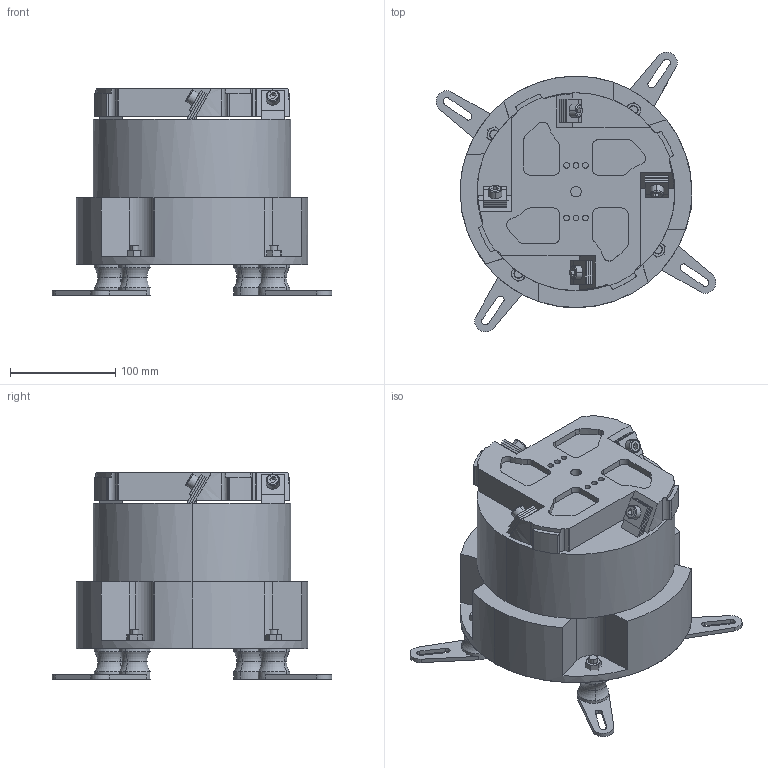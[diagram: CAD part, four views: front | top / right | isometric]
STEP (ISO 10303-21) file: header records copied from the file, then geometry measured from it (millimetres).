
FILE_DESCRIPTION(/* description */ (''),/* implementation_level */ '2;1');
FILE_NAME(/* name */ 'DF200.stp',/* time_stamp */ '2022-04-15T10:21:05+08:00',/* author */ (''),/* organization */ (''),/* preprocessor_version */ 'ST-DEVELOPER v18.102',/* originating_system */ 'SIEMENS PLM Software NX 2019',/* authorisation */ '');
FILE_SCHEMA (('AUTOMOTIVE_DESIGN { 1 0 10303 214 3 1 1 1 }'));
Length unit declared in the file: millimetre
Products named in the file (1): DF200_stp_objects
Bounding box: 265.57 x 265.57 x 196 mm (x, y, z)
Volume: 586875 mm3; surface area: 323511.1 mm2
Topology: 29 solids, 30 shells, 566 faces, 1385 edges, 892 vertices
Faces by surface type: plane 272, cylinder 218, cone 52, torus 24
Entity records: 18160 total; most frequent: CARTESIAN_POINT 4063, DIRECTION 2939, ORIENTED_EDGE 2747, EDGE_CURVE 1377, AXIS2_PLACEMENT_3D 1101, VERTEX_POINT 892, LINE 737, VECTOR 737
